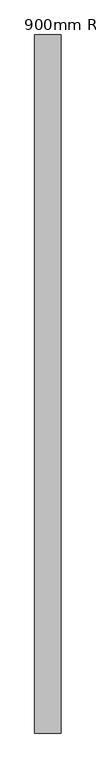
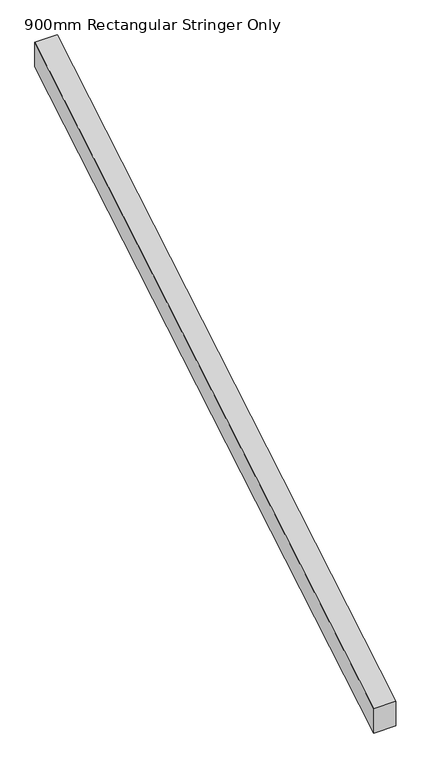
"""IFC4 building model written with IfcOpenShell, lengths in millimetres: railing geometry, 900mm Rectangular Stringer Only."""

from ifc_helpers import new_model, si_unit, frame, origin, place, context, project, spatial, polyline, outline, extrude, source, transform, mapped, element, save


def railing_900mm_rectangular_stringer_only_816b19ed(model_context):
    return source(origin(), model_context, "Body", "SweptSolid", [
        extrude(outline(polyline([(-2914.7438544, -1044.0519622), (-2914.7438544, -985.8900963), (-1593.9438544, -201.0180352), (-1593.9438544, -259.1799011), (-2914.7438544, -1044.0519622)])), frame((-1734.9755931, 0.0, 0.0), z_axis=(1.0, 0.0, 0.0), x_axis=(0.0, 1.0, 0.0)), (0.0, 0.0, 1.0), 50.0),
    ])


if __name__ == "__main__":
    model = new_model("IFC4")
    model_context = context("Model", 3, world=origin())
    ifc_project = project(units=[si_unit("LENGTHUNIT", "METRE", prefix="MILLI")], contexts=[model_context])
    site = spatial("IfcSite", under=ifc_project)
    building = spatial("IfcBuilding", under=site)
    placement = place(None, origin())
    railing_900mm_rectangular_stringer_only_shape = railing_900mm_rectangular_stringer_only_816b19ed(model_context)
    element("IfcRailing", 1, ObjectType="900mm Rectangular Stringer Only", at=placement, inside=building, context=model_context, shape_type="MappedRepresentation", body=[
        mapped(railing_900mm_rectangular_stringer_only_shape, transform((0.0, 0.0, 0.0), x_axis=(1.0, 0.0, 0.0), y_axis=(0.0, 1.0, 0.0), z_axis=(0.0, 0.0, 1.0))),
    ])
    save(model, "model.ifc")
